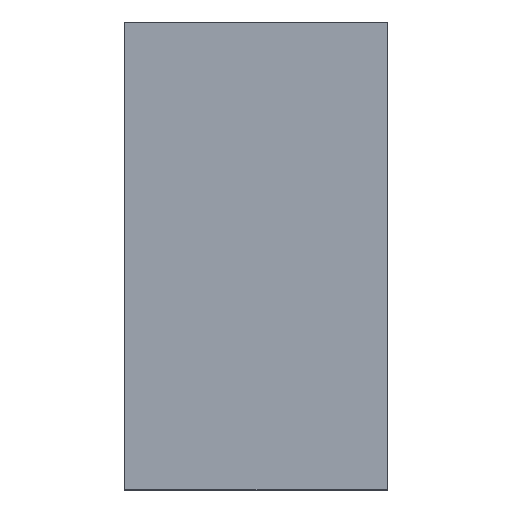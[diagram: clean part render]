
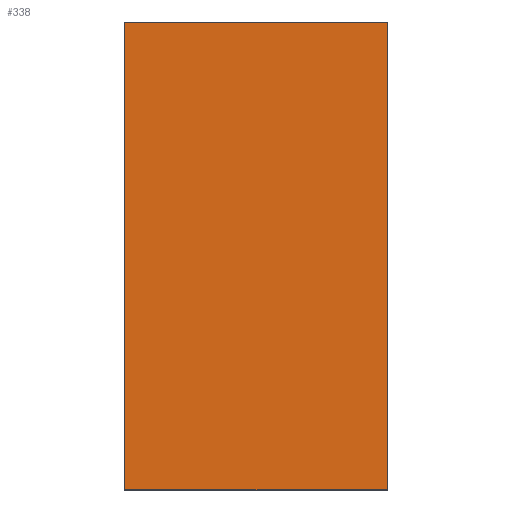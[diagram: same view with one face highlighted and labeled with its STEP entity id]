
A CAD part, top view. The second image highlights one B-rep face of the part: STEP entity #338.
In plain terms, the highlighted planar face has unit normal (0, 0, 1).
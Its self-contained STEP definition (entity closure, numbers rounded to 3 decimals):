
#24 = VERTEX_POINT('',#25);
#25 = CARTESIAN_POINT('',(-35.6,-49.,12.9));
#32 = PLANE('',#33);
#33 = AXIS2_PLACEMENT_3D('',#34,#35,#36);
#34 = CARTESIAN_POINT('',(-35.6,-49.,11.9));
#35 = DIRECTION('',(1.,0.,0.));
#36 = DIRECTION('',(0.,0.,1.));
#44 = PLANE('',#45);
#45 = AXIS2_PLACEMENT_3D('',#46,#47,#48);
#46 = CARTESIAN_POINT('',(-35.6,-49.,11.9));
#47 = DIRECTION('',(0.,1.,0.));
#48 = DIRECTION('',(0.,-0.,1.));
#85 = VERTEX_POINT('',#86);
#86 = CARTESIAN_POINT('',(-35.6,-39.,12.9));
#100 = PLANE('',#101);
#101 = AXIS2_PLACEMENT_3D('',#102,#103,#104);
#102 = CARTESIAN_POINT('',(-35.6,-39.,11.9));
#103 = DIRECTION('',(0.,1.,0.));
#104 = DIRECTION('',(0.,-0.,1.));
#112 = EDGE_CURVE('',#24,#85,#113,.T.);
#113 = SURFACE_CURVE('',#114,(#118,#125),.PCURVE_S1.);
#114 = LINE('',#115,#116);
#115 = CARTESIAN_POINT('',(-35.6,-49.,12.9));
#116 = VECTOR('',#117,1.);
#117 = DIRECTION('',(0.,1.,0.));
#118 = PCURVE('',#32,#119);
#119 = DEFINITIONAL_REPRESENTATION('',(#120),#124);
#120 = LINE('',#121,#122);
#121 = CARTESIAN_POINT('',(1.,0.));
#122 = VECTOR('',#123,1.);
#123 = DIRECTION('',(0.,-1.));
#124 = ( GEOMETRIC_REPRESENTATION_CONTEXT(2) 
PARAMETRIC_REPRESENTATION_CONTEXT() REPRESENTATION_CONTEXT('2D SPACE',''
  ) );
#125 = PCURVE('',#126,#131);
#126 = PLANE('',#127);
#127 = AXIS2_PLACEMENT_3D('',#128,#129,#130);
#128 = CARTESIAN_POINT('',(-35.6,-49.,12.9));
#129 = DIRECTION('',(0.,0.,1.));
#130 = DIRECTION('',(1.,0.,-0.));
#131 = DEFINITIONAL_REPRESENTATION('',(#132),#136);
#132 = LINE('',#133,#134);
#133 = CARTESIAN_POINT('',(0.,0.));
#134 = VECTOR('',#135,1.);
#135 = DIRECTION('',(0.,1.));
#136 = ( GEOMETRIC_REPRESENTATION_CONTEXT(2) 
PARAMETRIC_REPRESENTATION_CONTEXT() REPRESENTATION_CONTEXT('2D SPACE',''
  ) );
#144 = VERTEX_POINT('',#145);
#145 = CARTESIAN_POINT('',(-30.,-49.,12.9));
#152 = PLANE('',#153);
#153 = AXIS2_PLACEMENT_3D('',#154,#155,#156);
#154 = CARTESIAN_POINT('',(-30.,-49.,11.9));
#155 = DIRECTION('',(1.,0.,0.));
#156 = DIRECTION('',(0.,0.,1.));
#195 = VERTEX_POINT('',#196);
#196 = CARTESIAN_POINT('',(-30.,-39.,12.9));
#217 = EDGE_CURVE('',#144,#195,#218,.T.);
#218 = SURFACE_CURVE('',#219,(#223,#230),.PCURVE_S1.);
#219 = LINE('',#220,#221);
#220 = CARTESIAN_POINT('',(-30.,-49.,12.9));
#221 = VECTOR('',#222,1.);
#222 = DIRECTION('',(0.,1.,0.));
#223 = PCURVE('',#152,#224);
#224 = DEFINITIONAL_REPRESENTATION('',(#225),#229);
#225 = LINE('',#226,#227);
#226 = CARTESIAN_POINT('',(1.,0.));
#227 = VECTOR('',#228,1.);
#228 = DIRECTION('',(0.,-1.));
#229 = ( GEOMETRIC_REPRESENTATION_CONTEXT(2) 
PARAMETRIC_REPRESENTATION_CONTEXT() REPRESENTATION_CONTEXT('2D SPACE',''
  ) );
#230 = PCURVE('',#126,#231);
#231 = DEFINITIONAL_REPRESENTATION('',(#232),#236);
#232 = LINE('',#233,#234);
#233 = CARTESIAN_POINT('',(5.6,0.));
#234 = VECTOR('',#235,1.);
#235 = DIRECTION('',(0.,1.));
#236 = ( GEOMETRIC_REPRESENTATION_CONTEXT(2) 
PARAMETRIC_REPRESENTATION_CONTEXT() REPRESENTATION_CONTEXT('2D SPACE',''
  ) );
#263 = EDGE_CURVE('',#24,#144,#264,.T.);
#264 = SURFACE_CURVE('',#265,(#269,#276),.PCURVE_S1.);
#265 = LINE('',#266,#267);
#266 = CARTESIAN_POINT('',(-35.6,-49.,12.9));
#267 = VECTOR('',#268,1.);
#268 = DIRECTION('',(1.,0.,0.));
#269 = PCURVE('',#44,#270);
#270 = DEFINITIONAL_REPRESENTATION('',(#271),#275);
#271 = LINE('',#272,#273);
#272 = CARTESIAN_POINT('',(1.,0.));
#273 = VECTOR('',#274,1.);
#274 = DIRECTION('',(0.,1.));
#275 = ( GEOMETRIC_REPRESENTATION_CONTEXT(2) 
PARAMETRIC_REPRESENTATION_CONTEXT() REPRESENTATION_CONTEXT('2D SPACE',''
  ) );
#276 = PCURVE('',#126,#277);
#277 = DEFINITIONAL_REPRESENTATION('',(#278),#282);
#278 = LINE('',#279,#280);
#279 = CARTESIAN_POINT('',(0.,0.));
#280 = VECTOR('',#281,1.);
#281 = DIRECTION('',(1.,0.));
#282 = ( GEOMETRIC_REPRESENTATION_CONTEXT(2) 
PARAMETRIC_REPRESENTATION_CONTEXT() REPRESENTATION_CONTEXT('2D SPACE',''
  ) );
#310 = EDGE_CURVE('',#85,#195,#311,.T.);
#311 = SURFACE_CURVE('',#312,(#316,#323),.PCURVE_S1.);
#312 = LINE('',#313,#314);
#313 = CARTESIAN_POINT('',(-35.6,-39.,12.9));
#314 = VECTOR('',#315,1.);
#315 = DIRECTION('',(1.,0.,0.));
#316 = PCURVE('',#100,#317);
#317 = DEFINITIONAL_REPRESENTATION('',(#318),#322);
#318 = LINE('',#319,#320);
#319 = CARTESIAN_POINT('',(1.,0.));
#320 = VECTOR('',#321,1.);
#321 = DIRECTION('',(0.,1.));
#322 = ( GEOMETRIC_REPRESENTATION_CONTEXT(2) 
PARAMETRIC_REPRESENTATION_CONTEXT() REPRESENTATION_CONTEXT('2D SPACE',''
  ) );
#323 = PCURVE('',#126,#324);
#324 = DEFINITIONAL_REPRESENTATION('',(#325),#329);
#325 = LINE('',#326,#327);
#326 = CARTESIAN_POINT('',(0.,10.));
#327 = VECTOR('',#328,1.);
#328 = DIRECTION('',(1.,0.));
#329 = ( GEOMETRIC_REPRESENTATION_CONTEXT(2) 
PARAMETRIC_REPRESENTATION_CONTEXT() REPRESENTATION_CONTEXT('2D SPACE',''
  ) );
#338 = ADVANCED_FACE('',(#339),#126,.T.);
#339 = FACE_BOUND('',#340,.T.);
#340 = EDGE_LOOP('',(#341,#342,#343,#344));
#341 = ORIENTED_EDGE('',*,*,#112,.F.);
#342 = ORIENTED_EDGE('',*,*,#263,.T.);
#343 = ORIENTED_EDGE('',*,*,#217,.T.);
#344 = ORIENTED_EDGE('',*,*,#310,.F.);
